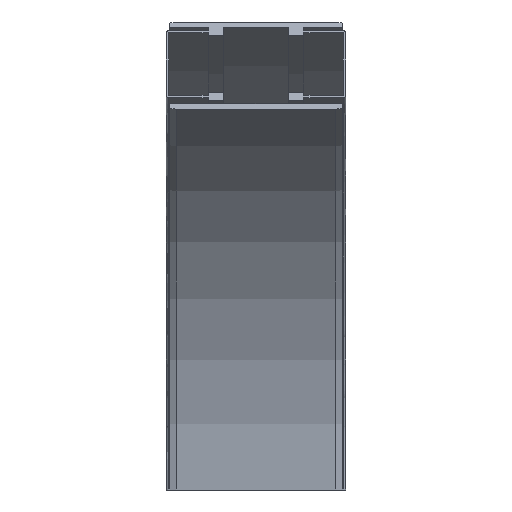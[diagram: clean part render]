
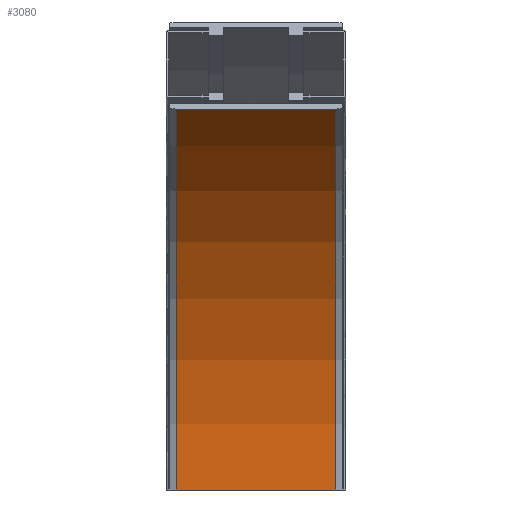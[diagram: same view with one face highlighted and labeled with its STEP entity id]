
A CAD part, front view. The second image highlights one B-rep face of the part: STEP entity #3080.
In plain terms, the highlighted cylindrical face has radius 357.5 mm (diameter 715 mm), a partial arc.
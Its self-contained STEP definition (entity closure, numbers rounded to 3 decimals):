
#3022=CARTESIAN_POINT('',(104.,-252.75,309.604));
#3023=VERTEX_POINT('',#3022);
#3030=CARTESIAN_POINT('',(104.,-74.,0.0));
#3031=VERTEX_POINT('',#3030);
#3032=CARTESIAN_POINT('',(104.,-431.5,0.));
#3033=DIRECTION('',(1.0,0.0,0.0));
#3034=DIRECTION('',(0.0,1.0,0.0));
#3035=AXIS2_PLACEMENT_3D('',#3032,#3033,#3034);
#3036=CIRCLE('',#3035,357.5);
#3037=EDGE_CURVE('',#3031,#3023,#3036,.T.);
#3049=CARTESIAN_POINT('',(39.,-431.5,0.));
#3050=DIRECTION('',(1.0,0.0,0.0));
#3051=DIRECTION('',(0.0,1.0,0.0));
#3052=AXIS2_PLACEMENT_3D('',#3049,#3050,#3051);
#3053=CYLINDRICAL_SURFACE('',#3052,357.5);
#3054=CARTESIAN_POINT('',(-26.,-252.75,309.604));
#3055=VERTEX_POINT('',#3054);
#3056=CARTESIAN_POINT('',(104.0,-252.75,309.604));
#3057=DIRECTION('',(-1.0,0.0,0.0));
#3058=VECTOR('',#3057,130.);
#3059=LINE('',#3056,#3058);
#3060=EDGE_CURVE('',#3023,#3055,#3059,.T.);
#3061=ORIENTED_EDGE('',*,*,#3060,.T.);
#3062=CARTESIAN_POINT('',(-26.,-74.,0.0));
#3063=VERTEX_POINT('',#3062);
#3064=CARTESIAN_POINT('',(-26.,-431.5,0.));
#3065=DIRECTION('',(1.0,0.0,0.0));
#3066=DIRECTION('',(0.0,1.0,0.0));
#3067=AXIS2_PLACEMENT_3D('',#3064,#3065,#3066);
#3068=CIRCLE('',#3067,357.5);
#3069=EDGE_CURVE('',#3063,#3055,#3068,.T.);
#3070=ORIENTED_EDGE('',*,*,#3069,.F.);
#3071=CARTESIAN_POINT('',(-26.,-74.,0.0));
#3072=DIRECTION('',(1.0,0.0,0.0));
#3073=VECTOR('',#3072,130.);
#3074=LINE('',#3071,#3073);
#3075=EDGE_CURVE('',#3063,#3031,#3074,.T.);
#3076=ORIENTED_EDGE('',*,*,#3075,.T.);
#3077=ORIENTED_EDGE('',*,*,#3037,.T.);
#3078=EDGE_LOOP('',(#3061,#3070,#3076,#3077));
#3079=FACE_OUTER_BOUND('',#3078,.T.);
#3080=ADVANCED_FACE('',(#3079),#3053,.F.);
